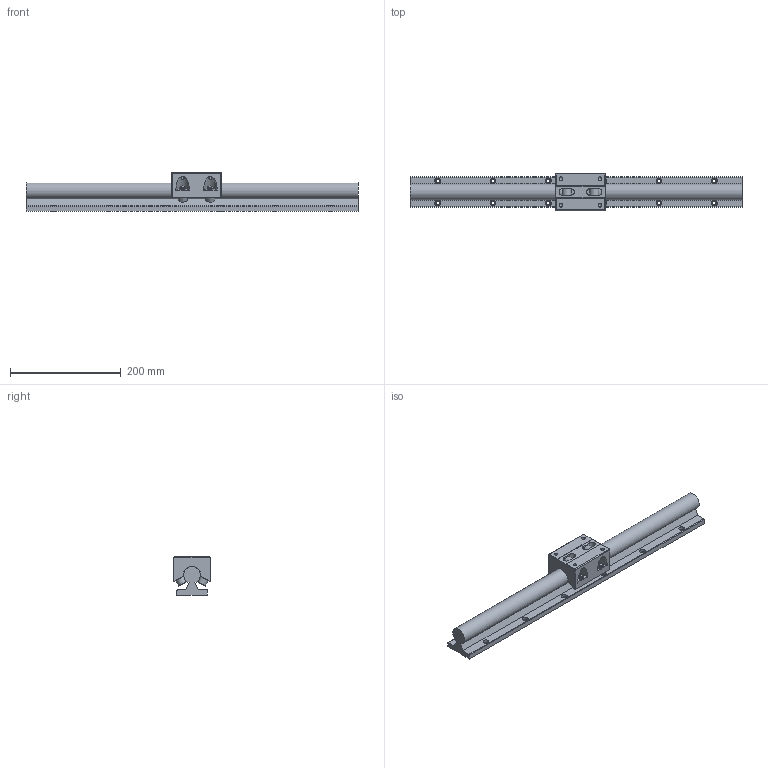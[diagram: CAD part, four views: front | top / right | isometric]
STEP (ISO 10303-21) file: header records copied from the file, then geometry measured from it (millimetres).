
FILE_DESCRIPTION((''),'2;1');
FILE_NAME('C:\Documents and Settings\土屋\My Documents\土屋移動用フォルダ\製品 (図面3D用)\カタログ用3D\リニアガイド\RGB\採用\RGB30.stp','2018-05-28T15:41:38',('y'),(''),'Autodesk Inventor 11','Autodesk Inventor 11','');
FILE_SCHEMA(('AUTOMOTIVE_DESIGN { 1 0 10303 214 1 1 1 1 }'));
Length unit declared in the file: millimetre
Products named in the file (3): RGB30; G30R5
Assembly tree (2 placements, depth 2):
  RGB30
    G30R5
    RGB30
Bounding box: 600 x 68.5 x 70 mm (x, y, z)
Volume: 1040331.4 mm3; surface area: 174756.6 mm2
Topology: 2 solids, 2 shells, 209 faces, 457 edges, 296 vertices
Faces by surface type: bspline 102, plane 65, cylinder 26, cone 16
Full cylindrical faces by diameter (mm): 5 x4, 6 x4, 6.647 x2, 12 x2, 16 x3
Entity records: 6584 total; most frequent: CARTESIAN_POINT 2533, ORIENTED_EDGE 770, DIRECTION 711, EDGE_CURVE 385, EDGE_LOOP 347, VERTEX_POINT 286, AXIS2_PLACEMENT_3D 270, FACE_OUTER_BOUND 209
